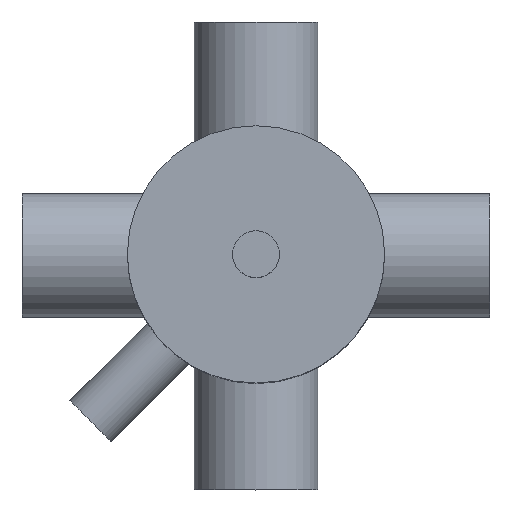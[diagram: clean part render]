
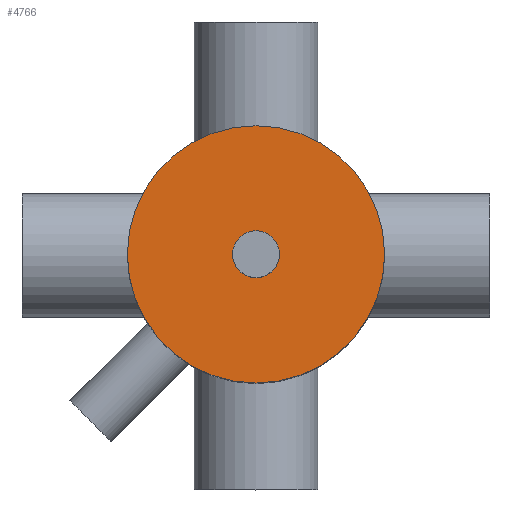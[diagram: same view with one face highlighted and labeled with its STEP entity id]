
A CAD part, top view. The second image highlights one B-rep face of the part: STEP entity #4766.
In plain terms, the highlighted planar face has unit normal (0, 0, 1).
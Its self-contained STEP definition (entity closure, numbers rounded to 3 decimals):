
#4682 = CYLINDRICAL_SURFACE('',#4683,55.);
#4683 = AXIS2_PLACEMENT_3D('',#4684,#4685,#4686);
#4684 = CARTESIAN_POINT('',(0.,0.,159.5));
#4685 = DIRECTION('',(0.,0.,1.));
#4686 = DIRECTION('',(1.,0.,0.));
#4715 = EDGE_CURVE('',#4716,#4716,#4718,.T.);
#4716 = VERTEX_POINT('',#4717);
#4717 = CARTESIAN_POINT('',(55.,0.,312.3));
#4718 = SURFACE_CURVE('',#4719,(#4724,#4731),.PCURVE_S1.);
#4719 = CIRCLE('',#4720,55.);
#4720 = AXIS2_PLACEMENT_3D('',#4721,#4722,#4723);
#4721 = CARTESIAN_POINT('',(0.,0.,312.3));
#4722 = DIRECTION('',(0.,0.,1.));
#4723 = DIRECTION('',(1.,0.,0.));
#4724 = PCURVE('',#4682,#4725);
#4725 = DEFINITIONAL_REPRESENTATION('',(#4726),#4730);
#4726 = LINE('',#4727,#4728);
#4727 = CARTESIAN_POINT('',(0.,152.8));
#4728 = VECTOR('',#4729,1.);
#4729 = DIRECTION('',(1.,0.));
#4730 = ( GEOMETRIC_REPRESENTATION_CONTEXT(2) 
PARAMETRIC_REPRESENTATION_CONTEXT() REPRESENTATION_CONTEXT('2D SPACE',''
  ) );
#4731 = PCURVE('',#4732,#4737);
#4732 = PLANE('',#4733);
#4733 = AXIS2_PLACEMENT_3D('',#4734,#4735,#4736);
#4734 = CARTESIAN_POINT('',(0.,0.,312.3));
#4735 = DIRECTION('',(0.,0.,1.));
#4736 = DIRECTION('',(1.,0.,0.));
#4737 = DEFINITIONAL_REPRESENTATION('',(#4738),#4742);
#4738 = CIRCLE('',#4739,55.);
#4739 = AXIS2_PLACEMENT_2D('',#4740,#4741);
#4740 = CARTESIAN_POINT('',(0.,0.));
#4741 = DIRECTION('',(1.,0.));
#4742 = ( GEOMETRIC_REPRESENTATION_CONTEXT(2) 
PARAMETRIC_REPRESENTATION_CONTEXT() REPRESENTATION_CONTEXT('2D SPACE',''
  ) );
#4766 = ADVANCED_FACE('',(#4767,#4770),#4732,.T.);
#4767 = FACE_BOUND('',#4768,.T.);
#4768 = EDGE_LOOP('',(#4769));
#4769 = ORIENTED_EDGE('',*,*,#4715,.T.);
#4770 = FACE_BOUND('',#4771,.T.);
#4771 = EDGE_LOOP('',(#4772));
#4772 = ORIENTED_EDGE('',*,*,#4773,.F.);
#4773 = EDGE_CURVE('',#4774,#4774,#4776,.T.);
#4774 = VERTEX_POINT('',#4775);
#4775 = CARTESIAN_POINT('',(10.,0.,312.3));
#4776 = SURFACE_CURVE('',#4777,(#4782,#4789),.PCURVE_S1.);
#4777 = CIRCLE('',#4778,10.);
#4778 = AXIS2_PLACEMENT_3D('',#4779,#4780,#4781);
#4779 = CARTESIAN_POINT('',(0.,0.,312.3));
#4780 = DIRECTION('',(0.,0.,1.));
#4781 = DIRECTION('',(1.,0.,-0.));
#4782 = PCURVE('',#4732,#4783);
#4783 = DEFINITIONAL_REPRESENTATION('',(#4784),#4788);
#4784 = CIRCLE('',#4785,10.);
#4785 = AXIS2_PLACEMENT_2D('',#4786,#4787);
#4786 = CARTESIAN_POINT('',(0.,0.));
#4787 = DIRECTION('',(1.,0.));
#4788 = ( GEOMETRIC_REPRESENTATION_CONTEXT(2) 
PARAMETRIC_REPRESENTATION_CONTEXT() REPRESENTATION_CONTEXT('2D SPACE',''
  ) );
#4789 = PCURVE('',#4790,#4795);
#4790 = CYLINDRICAL_SURFACE('',#4791,10.);
#4791 = AXIS2_PLACEMENT_3D('',#4792,#4793,#4794);
#4792 = CARTESIAN_POINT('',(0.,0.,45.));
#4793 = DIRECTION('',(0.,0.,1.));
#4794 = DIRECTION('',(1.,0.,0.));
#4795 = DEFINITIONAL_REPRESENTATION('',(#4796),#4800);
#4796 = LINE('',#4797,#4798);
#4797 = CARTESIAN_POINT('',(0.,267.3));
#4798 = VECTOR('',#4799,1.);
#4799 = DIRECTION('',(1.,0.));
#4800 = ( GEOMETRIC_REPRESENTATION_CONTEXT(2) 
PARAMETRIC_REPRESENTATION_CONTEXT() REPRESENTATION_CONTEXT('2D SPACE',''
  ) );
